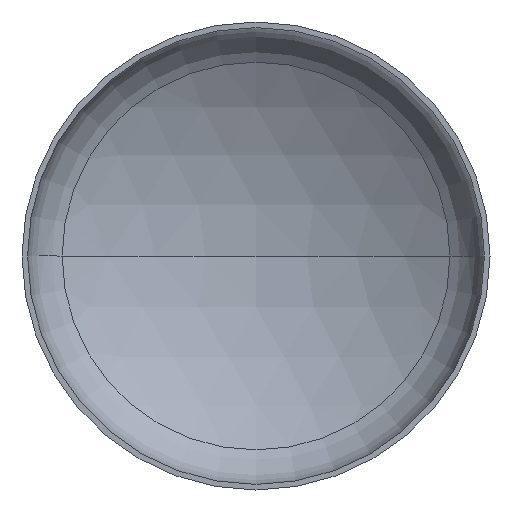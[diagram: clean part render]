
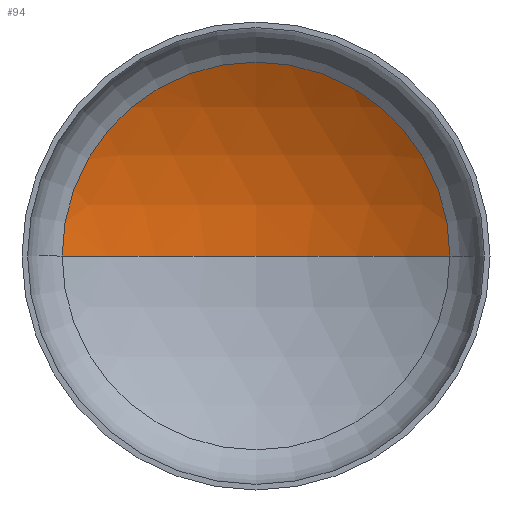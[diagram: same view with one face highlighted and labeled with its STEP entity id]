
A CAD part, front view. The second image highlights one B-rep face of the part: STEP entity #94.
In plain terms, the highlighted spherical face has radius 1280 mm.
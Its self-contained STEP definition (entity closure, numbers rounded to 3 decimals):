
#17 = EDGE_LOOP ( 'NONE', ( #87, #97, #53 ) ) ;
#18 = DIRECTION ( 'NONE',  ( 0., -1., 0. ) ) ;
#19 = CARTESIAN_POINT ( 'NONE',  ( 0., 269.587, 0. ) ) ;
#39 = VERTEX_POINT ( 'NONE', #258 ) ;
#46 = AXIS2_PLACEMENT_3D ( 'NONE', #201, #210, #209 ) ;
#47 = AXIS2_PLACEMENT_3D ( 'NONE', #279, #308, #160 ) ;
#53 = ORIENTED_EDGE ( 'NONE', *, *, #135, .T. ) ;
#54 = VERTEX_POINT ( 'NONE', #290 ) ;
#55 = AXIS2_PLACEMENT_3D ( 'NONE', #19, #18, #334 ) ;
#87 = ORIENTED_EDGE ( 'NONE', *, *, #139, .F. ) ;
#91 = AXIS2_PLACEMENT_3D ( 'NONE', #250, #235, #221 ) ;
#94 = ADVANCED_FACE ( 'NONE', ( #293 ), #137, .F. ) ;
#97 = ORIENTED_EDGE ( 'NONE', *, *, #138, .T. ) ;
#111 = VERTEX_POINT ( 'NONE', #330 ) ;
#135 = EDGE_CURVE ( 'NONE', #111, #39, #287, .T. ) ;
#137 = SPHERICAL_SURFACE ( 'NONE', #91, 1280. ) ;
#138 = EDGE_CURVE ( 'NONE', #54, #111, #215, .T. ) ;
#139 = EDGE_CURVE ( 'NONE', #54, #39, #151, .T. ) ;
#151 = CIRCLE ( 'NONE', #46, 1280. ) ;
#160 = DIRECTION ( 'NONE',  ( -1., 0., 0. ) ) ;
#201 = CARTESIAN_POINT ( 'NONE',  ( 0., -825.398, 0. ) ) ;
#209 = DIRECTION ( 'NONE',  ( 1., 0., 0. ) ) ;
#210 = DIRECTION ( 'NONE',  ( 0., 0., 1. ) ) ;
#215 = CIRCLE ( 'NONE', #47, 1280. ) ;
#221 = DIRECTION ( 'NONE',  ( -1., 0., 0. ) ) ;
#235 = DIRECTION ( 'NONE',  ( 0., 0., -1. ) ) ;
#250 = CARTESIAN_POINT ( 'NONE',  ( 0., -825.398, 0. ) ) ;
#258 = CARTESIAN_POINT ( 'NONE',  ( -662.879, 269.587, 0. ) ) ;
#279 = CARTESIAN_POINT ( 'NONE',  ( 0., -825.398, 0. ) ) ;
#287 = CIRCLE ( 'NONE', #55, 662.879 ) ;
#290 = CARTESIAN_POINT ( 'NONE',  ( 0., 454.602, 0. ) ) ;
#293 = FACE_OUTER_BOUND ( 'NONE', #17, .T. ) ;
#308 = DIRECTION ( 'NONE',  ( 0., 0., -1. ) ) ;
#330 = CARTESIAN_POINT ( 'NONE',  ( 662.879, 269.587, 0. ) ) ;
#334 = DIRECTION ( 'NONE',  ( 1., 0., 0. ) ) ;
